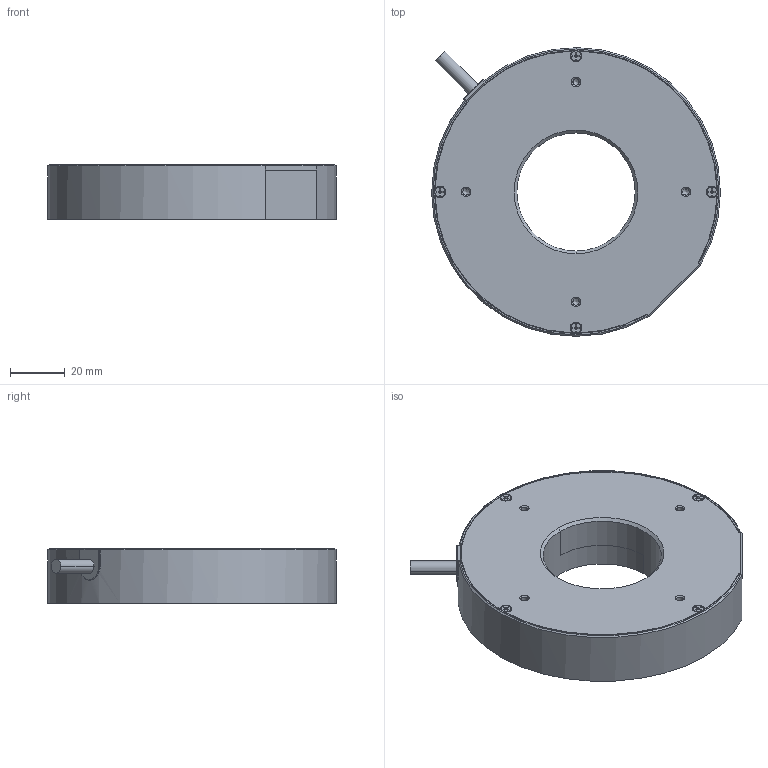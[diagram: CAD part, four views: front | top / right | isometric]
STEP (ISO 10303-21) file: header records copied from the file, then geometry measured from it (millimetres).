
FILE_DESCRIPTION((''),'2;1');
FILE_NAME('MV-LRDS-H-105-90-W','2022-09-02T14:55:22',('qiaoxuan5'),(''),'CREO PARAMETRIC BY PTC INC, 2020044','CREO PARAMETRIC BY PTC INC, 2020044','');
FILE_SCHEMA(('CONFIG_CONTROL_DESIGN'));
Length unit declared in the file: metre
Products named in the file (1): MV-LRDS-H-105-90-W
Bounding box: 105 x 105 x 20 mm (x, y, z)
Volume: 139861.6 mm3; surface area: 32918.9 mm2
Topology: 1 solids, 17 shells, 538 faces, 1286 edges, 756 vertices
Faces by surface type: plane 265, cylinder 153, cone 94, torus 20, sphere 6
Entity records: 15397 total; most frequent: CARTESIAN_POINT 2982, DIRECTION 2652, ORIENTED_EDGE 2512, EDGE_CURVE 1256, AXIS2_PLACEMENT_3D 959, VERTEX_POINT 756, VECTOR 734, LINE 734
